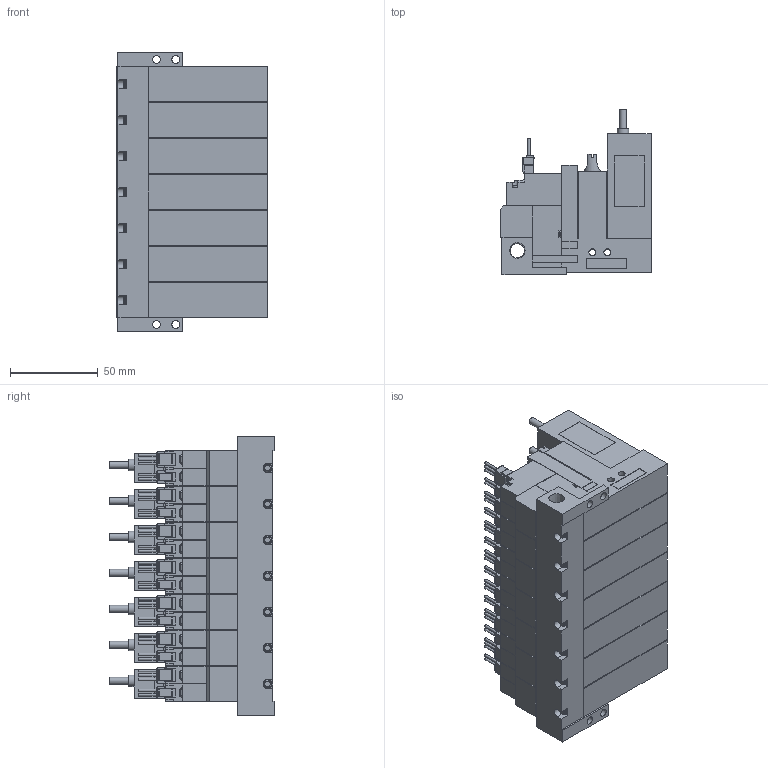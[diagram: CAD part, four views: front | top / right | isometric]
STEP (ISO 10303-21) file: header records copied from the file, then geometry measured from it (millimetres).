
FILE_DESCRIPTION(('STEP AP203'),'1');
FILE_NAME('VG_VGPL5WLR707.stp','2025-02-25T04:40:02',(' '),(' '),'Spatial InterOp 3D',' ',' ');
FILE_SCHEMA(('CONFIG_CONTROL_DESIGN'));
Length unit declared in the file: millimetre
Products named in the file (5): BMC22M※※※※VG_VGPL5WLR707; Solenoid valve W; Pressure sensor VGL; Unit L; Base MR70R
Assembly tree (22 placements, depth 2):
  BMC22M※※※※VG_VGPL5WLR707
    Solenoid valve W  x7
    Pressure sensor VGL  x7
    Unit L  x7
    Base MR70R
Bounding box: 86.6 x 94 x 159 mm (x, y, z)
Volume: 701296.3 mm3; surface area: 188966.4 mm2
Topology: 22 solids, 22 shells, 2541 faces, 6793 edges, 4499 vertices
Faces by surface type: plane 2142, cylinder 327, cone 51, torus 21
Full cylindrical faces by diameter (mm): 1.4 x35, 2.5 x21, 3 x28, 3.5 x28, 3.6 x7, 4 x42, 4.134 x7, 4.5 x4, 5.2 x7, 6 x7, 6.5 x7, 6.6 x7, 8.279 x1
Entity records: 14670 total; most frequent: CARTESIAN_POINT 2823, DIRECTION 2353, ORIENTED_EDGE 2238, EDGE_CURVE 1119, LINE 875, VECTOR 875, VERTEX_POINT 794, AXIS2_PLACEMENT_3D 739
